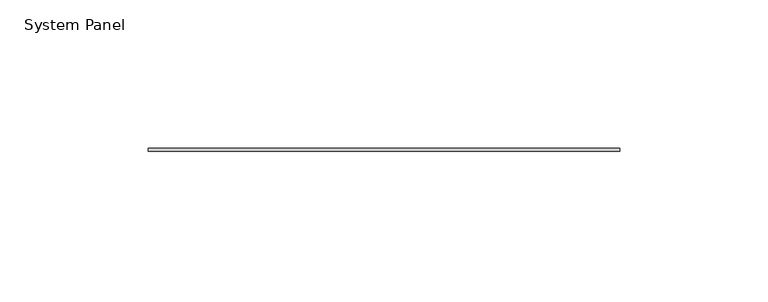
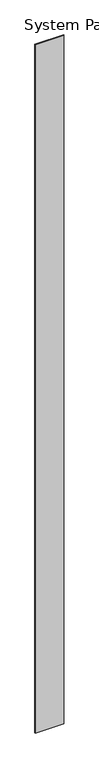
"""IFC4 building model written with IfcOpenShell, lengths in millimetres: plate geometry, System Panel : Stratco_Hiland_Interlock_Panel."""

from ifc_helpers import new_model, si_unit, origin, origin_with_axes, place, context, project, spatial, polyline, outline, extrude, source, transform, mapped, element, save


def system_panel_544ca3a1(model_context):
    return source(origin(), model_context, "Body", "SweptSolid", [
        extrude(outline(polyline([(79.4514014, 24.0), (-79.4514014, 24.0), (-79.4514014, 25.0), (79.4514014, 25.0), (79.4514014, 24.0)])), origin_with_axes(), (0.0, 0.0, 1.0), 4000.0),
    ])


if __name__ == "__main__":
    model = new_model("IFC4")
    model_context = context("Model", 3, world=origin())
    ifc_project = project(units=[si_unit("LENGTHUNIT", "METRE", prefix="MILLI")], contexts=[model_context])
    site = spatial("IfcSite", under=ifc_project)
    building = spatial("IfcBuilding", under=site)
    placement = place(None, origin())
    system_panel_shape = system_panel_544ca3a1(model_context)
    element("IfcPlate", 1, ObjectType="System Panel : Stratco_Hiland_Interlock_Panel", at=placement, inside=building, context=model_context, shape_type="MappedRepresentation", body=[
        mapped(system_panel_shape, transform((0.0, 0.0, 0.0), x_axis=(1.0, 0.0, 0.0), y_axis=(0.0, 1.0, 0.0), z_axis=(0.0, 0.0, 1.0))),
    ])
    save(model, "model.ifc")
